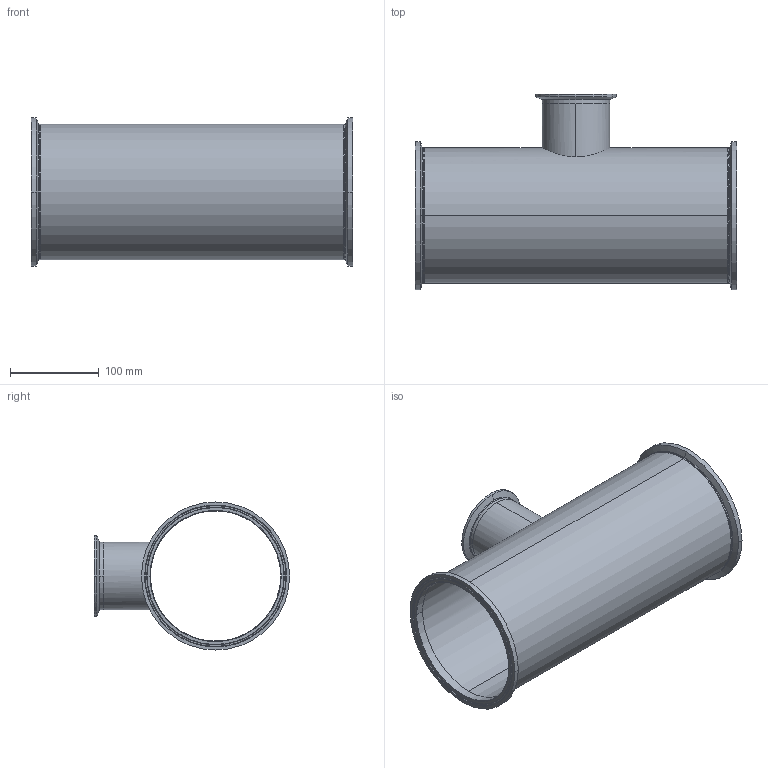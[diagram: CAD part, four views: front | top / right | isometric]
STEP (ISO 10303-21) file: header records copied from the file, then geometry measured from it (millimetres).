
FILE_DESCRIPTION (( 'STEP AP214' ), '1' );
FILE_NAME ('TEG7R6L6.0x3.0-...STEP', '2016-05-24T07:32:27', ( 'eran' ), ( '' ), 'SwSTEP 2.0', 'SolidWorks 2016', '' );
FILE_SCHEMA (( 'AUTOMOTIVE_DESIGN' ));
Length unit declared in the file: millimetre
Products named in the file (1): TEG7R6L6.0x3.0-..
Bounding box: 362 x 219.94 x 166.88 mm (x, y, z)
Volume: 540986.3 mm3; surface area: 388189.8 mm2
Topology: 4 solids, 4 shells, 86 faces, 214 edges, 140 vertices
Faces by surface type: bspline 30, cylinder 26, cone 18, plane 12
Entity records: 5826 total; most frequent: CARTESIAN_POINT 3711, DIRECTION 454, ORIENTED_EDGE 428, EDGE_CURVE 214, AXIS2_PLACEMENT_3D 205, CIRCLE 148, VERTEX_POINT 140, EDGE_LOOP 100
